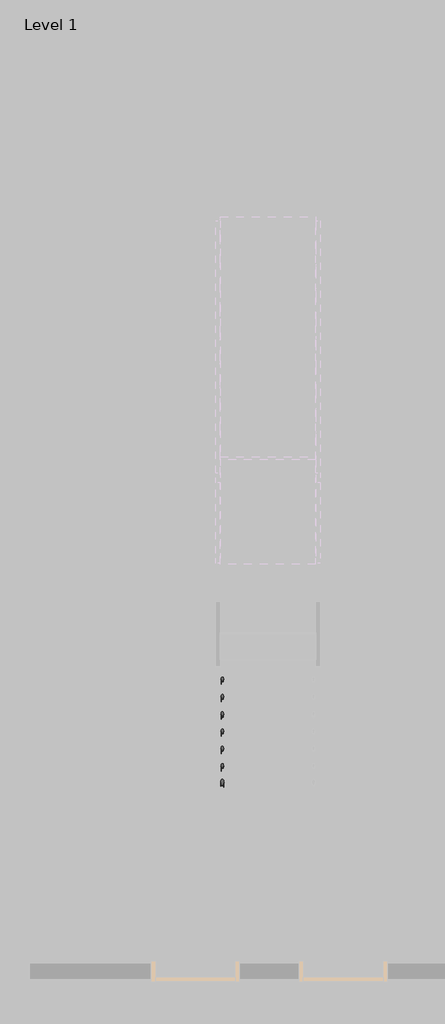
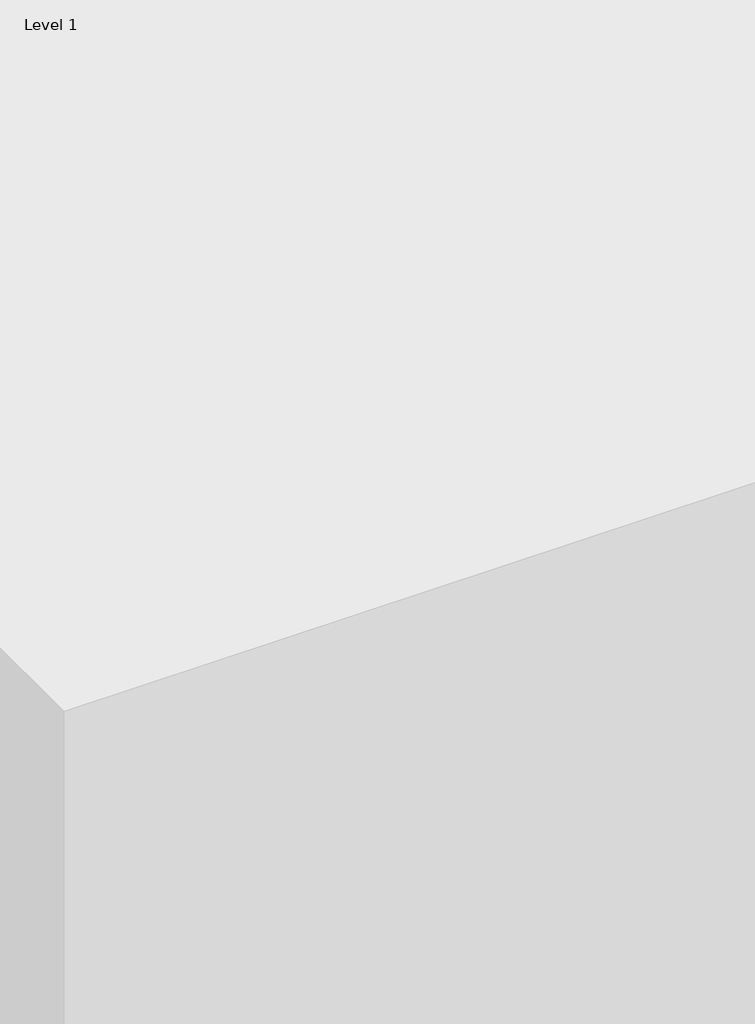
# One storey, part 18 of 27: 1 railing.
"""IFC4 building model written with IfcOpenShell, lengths in millimetres."""

from ifc_helpers import new_model, si_unit, frame, origin, place, context, project, spatial, circle_curve, ellipse_curve, element, save
from ifc_brep_helpers import plane_surface, cylinder_surface, advanced_brep

model = new_model("IFC4")

# Units and contexts
model_context = context("Model", 3, world=origin())
ifc_project = project(units=[si_unit("LENGTHUNIT", "METRE", prefix="MILLI")], contexts=[model_context])

# Site, building, storey
site = spatial("IfcSite", under=ifc_project)
building = spatial("IfcBuilding", under=site)
storey = spatial("IfcBuildingStorey", under=building, Name="Level 1", Elevation=0.0)

# Railing
placement = place(None, origin())
element("IfcRailing", 1, ObjectType="900mm Pipe", at=placement, inside=storey, context=model_context, shape_type="AdvancedBrep", body=[
    advanced_brep(
    [(2614.0567657, -13373.8611817, 1049.1094102), (2574.0567657, -13373.8611817, 1049.1094102), (2614.0567657, -10618.1011638, 2780.0), (2574.0567657, -10618.1011638, 2780.0), (2614.0567657, -9693.1011638, 2780.0), (2574.0567657, -9693.1011638, 2780.0), (2614.0567657, -9413.2234845, 2955.790939), (2574.0567657, -9413.2234845, 2955.790939), (2614.0567657, -6673.8611817, 4676.3821375), (2574.0567657, -6673.8611817, 4676.3821375)],
    [
        (0, 1, ellipse_curve(frame((2594.0567657, -13373.8611817, 1049.1094102), z_axis=(0.0, -1.0, 0.0), x_axis=(0.0, 0.0, -1.0)), 23.6178625, 20.0)),
        (1, 0, ellipse_curve(frame((2594.0567657, -13373.8611817, 1049.1094102), z_axis=(0.0, -1.0, 0.0), x_axis=(0.0, 0.0, -1.0)), 23.6178625, 20.0)),
        (0, 2),
        (2, 3, ellipse_curve(frame((2594.0567657, -10618.1011638, 2780.0), z_axis=(0.0, -0.9609413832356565, -0.2767519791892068), x_axis=(0.0, 0.2767519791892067, -0.9609413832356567)), 20.812924, 20.0)),
        (3, 1),
        (3, 2, ellipse_curve(frame((2594.0567657, -10618.1011638, 2780.0), z_axis=(0.0, -0.9609413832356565, -0.2767519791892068), x_axis=(0.0, 0.2767519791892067, -0.9609413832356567)), 20.812924, 20.0)),
        (2, 4),
        (4, 5, ellipse_curve(frame((2594.0567657, -9693.1011638, 2780.0), z_axis=(0.0, -0.9609413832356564, -0.2767519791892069), x_axis=(0.0, -0.27675197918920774, 0.9609413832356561)), 20.812924, 20.0)),
        (5, 3),
        (5, 4, ellipse_curve(frame((2594.0567657, -9693.1011638, 2780.0), z_axis=(0.0, -0.9609413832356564, -0.2767519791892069), x_axis=(0.0, -0.27675197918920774, 0.9609413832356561)), 20.812924, 20.0)),
        (4, 6),
        (6, 7, circle_curve(frame((2594.0567657, -9413.2234845, 2955.790939), z_axis=(0.0, -0.8468166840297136, -0.5318848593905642), x_axis=(-1.0, 0.0, 0.0)), 20.0)),
        (7, 5),
        (7, 6, circle_curve(frame((2594.0567657, -9413.2234845, 2955.790939), z_axis=(0.0, -0.8468166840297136, -0.5318848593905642), x_axis=(-1.0, 0.0, 0.0)), 20.0)),
        (8, 9, ellipse_curve(frame((2594.0567657, -6673.8611817, 4676.3821375), z_axis=(0.0, 1.0, 0.0), x_axis=(0.0, 0.0, -1.0)), 23.6178625, 20.0)),
        (9, 8, ellipse_curve(frame((2594.0567657, -6673.8611817, 4676.3821375), z_axis=(0.0, 1.0, 0.0), x_axis=(0.0, 0.0, -1.0)), 23.6178625, 20.0)),
        (6, 8),
        (9, 7),
    ],
    [
        plane_surface(frame((2594.0567657, -13373.8611817, 1072.7272727), z_axis=(0.0, -1.0, 0.0), x_axis=(0.0, 0.0, 1.0))),
        cylinder_surface(frame((2594.0567657, -13363.2234845, 1055.790939), z_axis=(0.0, -0.8468166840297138, -0.5318848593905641), x_axis=(-1.0, 0.0, 0.0)), 20.0),
        cylinder_surface(frame((2594.0567657, -10623.8611817, 2780.0), z_axis=(0.0, -1.0, 0.0), x_axis=(-1.0, 0.0, 0.0)), 20.0),
        cylinder_surface(frame((2594.0567657, -9688.2234845, 2783.0636663), z_axis=(0.0, -0.8468166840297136, -0.5318848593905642), x_axis=(-1.0, 0.0, 0.0)), 20.0),
        plane_surface(frame((2594.0567657, -6673.8611817, 4700.0), z_axis=(0.0, 1.0, 0.0), x_axis=(0.0, 0.0, 1.0))),
        cylinder_surface(frame((2594.0567657, -9413.2234845, 2955.790939), z_axis=(0.0, -0.8468166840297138, -0.531884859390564), x_axis=(-1.0, 0.0, 0.0)), 20.0),
    ],
    [
        (0, [[1, 2]]),
        (1, [[-1, 3, 4, 5]]),
        (1, [[-2, -5, 6, -3]]),
        (2, [[-4, 7, 8, 9]]),
        (2, [[-6, -9, 10, -7]]),
        (3, [[-8, 11, 12, 13]]),
        (3, [[-10, -13, 14, -11]]),
        (4, [[15, 16]]),
        (5, [[-12, 17, -16, 18]]),
        (5, [[-14, -18, -15, -17]]),
    ],
),
    advanced_brep(
    [(2609.0567657, -13373.8611817, 930.0138759), (2579.0567657, -13373.8611817, 930.0138759), (2609.0567657, -10623.8611817, 2657.2866031), (2579.0567657, -10623.8611817, 2657.2866031)],
    [
        (0, 1, ellipse_curve(frame((2594.0567657, -13373.8611817, 930.0138759), z_axis=(0.0, -1.0, 0.0), x_axis=(0.0, 0.0, -1.0)), 17.7133969, 15.0)),
        (1, 0, ellipse_curve(frame((2594.0567657, -13373.8611817, 930.0138759), z_axis=(0.0, -1.0, 0.0), x_axis=(0.0, 0.0, -1.0)), 17.7133969, 15.0)),
        (2, 3, ellipse_curve(frame((2594.0567657, -10623.8611817, 2657.2866031), z_axis=(0.0, 1.0, 0.0), x_axis=(0.0, 0.0, -1.0)), 17.7133969, 15.0)),
        (3, 2, ellipse_curve(frame((2594.0567657, -10623.8611817, 2657.2866031), z_axis=(0.0, 1.0, 0.0), x_axis=(0.0, 0.0, -1.0)), 17.7133969, 15.0)),
        (0, 2),
        (3, 1),
    ],
    [
        plane_surface(frame((2594.0567657, -13373.8611817, 947.7272727), z_axis=(0.0, -1.0, 0.0), x_axis=(0.0, 0.0, 1.0))),
        plane_surface(frame((2594.0567657, -10623.8611817, 2675.0), z_axis=(0.0, 1.0, 0.0), x_axis=(0.0, 0.0, 1.0))),
        cylinder_surface(frame((2594.0567657, -13365.8829088, 935.0250225), z_axis=(0.0, -0.8468166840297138, -0.5318848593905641), x_axis=(-1.0, 0.0, 0.0)), 15.0),
    ],
    [
        (0, [[1, 2]]),
        (1, [[3, 4]]),
        (2, [[-1, 5, -4, 6]]),
        (2, [[-2, -6, -3, -5]]),
    ],
),
    advanced_brep(
    [(2609.0567657, -10623.8611817, 2660.0), (2579.0567657, -10623.8611817, 2660.0), (2609.0567657, -9694.5411682, 2660.0), (2579.0567657, -9694.5411682, 2660.0), (2609.0567657, -9423.8611817, 2830.0138759), (2579.0567657, -9423.8611817, 2830.0138759)],
    [
        (0, 1, circle_curve(frame((2594.0567657, -10623.8611817, 2660.0), z_axis=(0.0, -1.0, 0.0), x_axis=(-1.0, 0.0, 0.0)), 15.0)),
        (1, 0, circle_curve(frame((2594.0567657, -10623.8611817, 2660.0), z_axis=(0.0, -1.0, 0.0), x_axis=(-1.0, 0.0, 0.0)), 15.0)),
        (0, 2),
        (2, 3, ellipse_curve(frame((2594.0567657, -9694.5411682, 2660.0), z_axis=(0.0, -0.9609413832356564, -0.2767519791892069), x_axis=(0.0, -0.2767519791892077, 0.9609413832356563)), 15.609693, 15.0)),
        (3, 1),
        (3, 2, ellipse_curve(frame((2594.0567657, -9694.5411682, 2660.0), z_axis=(0.0, -0.9609413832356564, -0.2767519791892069), x_axis=(0.0, -0.2767519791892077, 0.9609413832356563)), 15.609693, 15.0)),
        (4, 5, ellipse_curve(frame((2594.0567657, -9423.8611817, 2830.0138759), z_axis=(0.0, 1.0, 0.0), x_axis=(0.0, 0.0, -0.9999999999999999)), 17.7133969, 15.0)),
        (5, 4, ellipse_curve(frame((2594.0567657, -9423.8611817, 2830.0138759), z_axis=(0.0, 1.0, 0.0), x_axis=(0.0, 0.0, -0.9999999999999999)), 17.7133969, 15.0)),
        (2, 4),
        (5, 3),
    ],
    [
        plane_surface(frame((2594.0567657, -10623.8611817, 2675.0), z_axis=(0.0, -1.0, 0.0), x_axis=(0.0, 0.0, 1.0))),
        cylinder_surface(frame((2594.0567657, -10623.8611817, 2660.0), z_axis=(0.0, -1.0, 0.0), x_axis=(-1.0, 0.0, 0.0)), 15.0),
        plane_surface(frame((2594.0567657, -9423.8611817, 2847.7272727), z_axis=(0.0, 1.0, 0.0), x_axis=(0.0, 0.0, 1.0))),
        cylinder_surface(frame((2594.0567657, -9690.8829088, 2662.2977497), z_axis=(0.0, -0.8468166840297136, -0.5318848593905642), x_axis=(-1.0, 0.0, 0.0)), 15.0),
    ],
    [
        (0, [[1, 2]]),
        (1, [[-1, 3, 4, 5]]),
        (1, [[-2, -5, 6, -3]]),
        (2, [[7, 8]]),
        (3, [[-4, 9, -8, 10]]),
        (3, [[-6, -10, -7, -9]]),
    ],
),
    advanced_brep(
    [(2609.0567657, -9423.8611817, 2830.0138759), (2579.0567657, -9423.8611817, 2830.0138759), (2609.0567657, -6673.8611817, 4557.2866031), (2579.0567657, -6673.8611817, 4557.2866031)],
    [
        (0, 1, ellipse_curve(frame((2594.0567657, -9423.8611817, 2830.0138759), z_axis=(0.0, -1.0, 0.0), x_axis=(0.0, 0.0, -1.0)), 17.7133969, 15.0)),
        (1, 0, ellipse_curve(frame((2594.0567657, -9423.8611817, 2830.0138759), z_axis=(0.0, -1.0, 0.0), x_axis=(0.0, 0.0, -1.0)), 17.7133969, 15.0)),
        (2, 3, ellipse_curve(frame((2594.0567657, -6673.8611817, 4557.2866031), z_axis=(0.0, 1.0, 0.0), x_axis=(0.0, 0.0, -1.0)), 17.7133969, 15.0)),
        (3, 2, ellipse_curve(frame((2594.0567657, -6673.8611817, 4557.2866031), z_axis=(0.0, 1.0, 0.0), x_axis=(0.0, 0.0, -1.0)), 17.7133969, 15.0)),
        (0, 2),
        (3, 1),
    ],
    [
        plane_surface(frame((2594.0567657, -9423.8611817, 2847.7272727), z_axis=(0.0, -1.0, 0.0), x_axis=(0.0, 0.0, 1.0))),
        plane_surface(frame((2594.0567657, -6673.8611817, 4575.0), z_axis=(0.0, 1.0, 0.0), x_axis=(0.0, 0.0, 1.0))),
        cylinder_surface(frame((2594.0567657, -9415.8829088, 2835.0250225), z_axis=(0.0, -0.8468166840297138, -0.5318848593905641), x_axis=(-1.0, 0.0, 0.0)), 15.0),
    ],
    [
        (0, [[1, 2]]),
        (1, [[3, 4]]),
        (2, [[-1, 5, -4, 6]]),
        (2, [[-2, -6, -3, -5]]),
    ],
),
    advanced_brep(
    [(2609.0567657, -13373.8611817, 805.0138759), (2579.0567657, -13373.8611817, 805.0138759), (2609.0567657, -10623.8611817, 2532.2866031), (2579.0567657, -10623.8611817, 2532.2866031)],
    [
        (0, 1, ellipse_curve(frame((2594.0567657, -13373.8611817, 805.0138759), z_axis=(0.0, -1.0, 0.0), x_axis=(0.0, 0.0, -1.0)), 17.7133969, 15.0)),
        (1, 0, ellipse_curve(frame((2594.0567657, -13373.8611817, 805.0138759), z_axis=(0.0, -1.0, 0.0), x_axis=(0.0, 0.0, -1.0)), 17.7133969, 15.0)),
        (2, 3, ellipse_curve(frame((2594.0567657, -10623.8611817, 2532.2866031), z_axis=(0.0, 1.0, 0.0), x_axis=(0.0, 0.0, -1.0)), 17.7133969, 15.0)),
        (3, 2, ellipse_curve(frame((2594.0567657, -10623.8611817, 2532.2866031), z_axis=(0.0, 1.0, 0.0), x_axis=(0.0, 0.0, -1.0)), 17.7133969, 15.0)),
        (0, 2),
        (3, 1),
    ],
    [
        plane_surface(frame((2594.0567657, -13373.8611817, 822.7272727), z_axis=(0.0, -1.0, 0.0), x_axis=(0.0, 0.0, 1.0))),
        plane_surface(frame((2594.0567657, -10623.8611817, 2550.0), z_axis=(0.0, 1.0, 0.0), x_axis=(0.0, 0.0, 1.0))),
        cylinder_surface(frame((2594.0567657, -13365.8829088, 810.0250225), z_axis=(0.0, -0.8468166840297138, -0.5318848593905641), x_axis=(-1.0, 0.0, 0.0)), 15.0),
    ],
    [
        (0, [[1, 2]]),
        (1, [[3, 4]]),
        (2, [[-1, 5, -4, 6]]),
        (2, [[-2, -6, -3, -5]]),
    ],
),
    advanced_brep(
    [(2609.0567657, -10623.8611817, 2535.0), (2579.0567657, -10623.8611817, 2535.0), (2609.0567657, -9694.5411682, 2535.0), (2579.0567657, -9694.5411682, 2535.0), (2609.0567657, -9423.8611817, 2705.0138759), (2579.0567657, -9423.8611817, 2705.0138759)],
    [
        (0, 1, circle_curve(frame((2594.0567657, -10623.8611817, 2535.0), z_axis=(0.0, -1.0, 0.0), x_axis=(-1.0, 0.0, 0.0)), 15.0)),
        (1, 0, circle_curve(frame((2594.0567657, -10623.8611817, 2535.0), z_axis=(0.0, -1.0, 0.0), x_axis=(-1.0, 0.0, 0.0)), 15.0)),
        (0, 2),
        (2, 3, ellipse_curve(frame((2594.0567657, -9694.5411682, 2535.0), z_axis=(0.0, -0.9609413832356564, -0.2767519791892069), x_axis=(0.0, -0.2767519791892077, 0.9609413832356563)), 15.609693, 15.0)),
        (3, 1),
        (3, 2, ellipse_curve(frame((2594.0567657, -9694.5411682, 2535.0), z_axis=(0.0, -0.9609413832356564, -0.2767519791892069), x_axis=(0.0, -0.2767519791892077, 0.9609413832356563)), 15.609693, 15.0)),
        (4, 5, ellipse_curve(frame((2594.0567657, -9423.8611817, 2705.0138759), z_axis=(0.0, 1.0, 0.0), x_axis=(0.0, 0.0, -0.9999999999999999)), 17.7133969, 15.0)),
        (5, 4, ellipse_curve(frame((2594.0567657, -9423.8611817, 2705.0138759), z_axis=(0.0, 1.0, 0.0), x_axis=(0.0, 0.0, -0.9999999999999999)), 17.7133969, 15.0)),
        (2, 4),
        (5, 3),
    ],
    [
        plane_surface(frame((2594.0567657, -10623.8611817, 2550.0), z_axis=(0.0, -1.0, 0.0), x_axis=(0.0, 0.0, 1.0))),
        cylinder_surface(frame((2594.0567657, -10623.8611817, 2535.0), z_axis=(0.0, -1.0, 0.0), x_axis=(-1.0, 0.0, 0.0)), 15.0),
        plane_surface(frame((2594.0567657, -9423.8611817, 2722.7272727), z_axis=(0.0, 1.0, 0.0), x_axis=(0.0, 0.0, 1.0))),
        cylinder_surface(frame((2594.0567657, -9690.8829088, 2537.2977497), z_axis=(0.0, -0.8468166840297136, -0.5318848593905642), x_axis=(-1.0, 0.0, 0.0)), 15.0),
    ],
    [
        (0, [[1, 2]]),
        (1, [[-1, 3, 4, 5]]),
        (1, [[-2, -5, 6, -3]]),
        (2, [[7, 8]]),
        (3, [[-4, 9, -8, 10]]),
        (3, [[-6, -10, -7, -9]]),
    ],
),
    advanced_brep(
    [(2609.0567657, -9423.8611817, 2705.0138759), (2579.0567657, -9423.8611817, 2705.0138759), (2609.0567657, -6673.8611817, 4432.2866031), (2579.0567657, -6673.8611817, 4432.2866031)],
    [
        (0, 1, ellipse_curve(frame((2594.0567657, -9423.8611817, 2705.0138759), z_axis=(0.0, -1.0, 0.0), x_axis=(0.0, 0.0, -1.0)), 17.7133969, 15.0)),
        (1, 0, ellipse_curve(frame((2594.0567657, -9423.8611817, 2705.0138759), z_axis=(0.0, -1.0, 0.0), x_axis=(0.0, 0.0, -1.0)), 17.7133969, 15.0)),
        (2, 3, ellipse_curve(frame((2594.0567657, -6673.8611817, 4432.2866031), z_axis=(0.0, 1.0, 0.0), x_axis=(0.0, 0.0, -1.0)), 17.7133969, 15.0)),
        (3, 2, ellipse_curve(frame((2594.0567657, -6673.8611817, 4432.2866031), z_axis=(0.0, 1.0, 0.0), x_axis=(0.0, 0.0, -1.0)), 17.7133969, 15.0)),
        (0, 2),
        (3, 1),
    ],
    [
        plane_surface(frame((2594.0567657, -9423.8611817, 2722.7272727), z_axis=(0.0, -1.0, 0.0), x_axis=(0.0, 0.0, 1.0))),
        plane_surface(frame((2594.0567657, -6673.8611817, 4450.0), z_axis=(0.0, 1.0, 0.0), x_axis=(0.0, 0.0, 1.0))),
        cylinder_surface(frame((2594.0567657, -9415.8829088, 2710.0250225), z_axis=(0.0, -0.8468166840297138, -0.5318848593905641), x_axis=(-1.0, 0.0, 0.0)), 15.0),
    ],
    [
        (0, [[1, 2]]),
        (1, [[3, 4]]),
        (2, [[-1, 5, -4, 6]]),
        (2, [[-2, -6, -3, -5]]),
    ],
),
    advanced_brep(
    [(2609.0567657, -13373.8611817, 680.0138759), (2579.0567657, -13373.8611817, 680.0138759), (2609.0567657, -10623.8611817, 2407.2866031), (2579.0567657, -10623.8611817, 2407.2866031)],
    [
        (0, 1, ellipse_curve(frame((2594.0567657, -13373.8611817, 680.0138759), z_axis=(0.0, -1.0, 0.0), x_axis=(0.0, 0.0, -1.0)), 17.7133969, 15.0)),
        (1, 0, ellipse_curve(frame((2594.0567657, -13373.8611817, 680.0138759), z_axis=(0.0, -1.0, 0.0), x_axis=(0.0, 0.0, -1.0)), 17.7133969, 15.0)),
        (2, 3, ellipse_curve(frame((2594.0567657, -10623.8611817, 2407.2866031), z_axis=(0.0, 1.0, 0.0), x_axis=(0.0, 0.0, -1.0)), 17.7133969, 15.0)),
        (3, 2, ellipse_curve(frame((2594.0567657, -10623.8611817, 2407.2866031), z_axis=(0.0, 1.0, 0.0), x_axis=(0.0, 0.0, -1.0)), 17.7133969, 15.0)),
        (0, 2),
        (3, 1),
    ],
    [
        plane_surface(frame((2594.0567657, -13373.8611817, 697.7272727), z_axis=(0.0, -1.0, 0.0), x_axis=(0.0, 0.0, 1.0))),
        plane_surface(frame((2594.0567657, -10623.8611817, 2425.0), z_axis=(0.0, 1.0, 0.0), x_axis=(0.0, 0.0, 1.0))),
        cylinder_surface(frame((2594.0567657, -13365.8829088, 685.0250225), z_axis=(0.0, -0.8468166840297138, -0.5318848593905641), x_axis=(-1.0, 0.0, 0.0)), 15.0),
    ],
    [
        (0, [[1, 2]]),
        (1, [[3, 4]]),
        (2, [[-1, 5, -4, 6]]),
        (2, [[-2, -6, -3, -5]]),
    ],
),
    advanced_brep(
    [(2609.0567657, -10623.8611817, 2410.0), (2579.0567657, -10623.8611817, 2410.0), (2609.0567657, -9694.5411682, 2410.0), (2579.0567657, -9694.5411682, 2410.0), (2609.0567657, -9423.8611817, 2580.0138759), (2579.0567657, -9423.8611817, 2580.0138759)],
    [
        (0, 1, circle_curve(frame((2594.0567657, -10623.8611817, 2410.0), z_axis=(0.0, -1.0, 0.0), x_axis=(-1.0, 0.0, 0.0)), 15.0)),
        (1, 0, circle_curve(frame((2594.0567657, -10623.8611817, 2410.0), z_axis=(0.0, -1.0, 0.0), x_axis=(-1.0, 0.0, 0.0)), 15.0)),
        (0, 2),
        (2, 3, ellipse_curve(frame((2594.0567657, -9694.5411682, 2410.0), z_axis=(0.0, -0.9609413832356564, -0.2767519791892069), x_axis=(0.0, -0.2767519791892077, 0.9609413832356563)), 15.609693, 15.0)),
        (3, 1),
        (3, 2, ellipse_curve(frame((2594.0567657, -9694.5411682, 2410.0), z_axis=(0.0, -0.9609413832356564, -0.2767519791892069), x_axis=(0.0, -0.2767519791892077, 0.9609413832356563)), 15.609693, 15.0)),
        (4, 5, ellipse_curve(frame((2594.0567657, -9423.8611817, 2580.0138759), z_axis=(0.0, 1.0, 0.0), x_axis=(0.0, 0.0, -0.9999999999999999)), 17.7133969, 15.0)),
        (5, 4, ellipse_curve(frame((2594.0567657, -9423.8611817, 2580.0138759), z_axis=(0.0, 1.0, 0.0), x_axis=(0.0, 0.0, -0.9999999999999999)), 17.7133969, 15.0)),
        (2, 4),
        (5, 3),
    ],
    [
        plane_surface(frame((2594.0567657, -10623.8611817, 2425.0), z_axis=(0.0, -1.0, 0.0), x_axis=(0.0, 0.0, 1.0))),
        cylinder_surface(frame((2594.0567657, -10623.8611817, 2410.0), z_axis=(0.0, -1.0, 0.0), x_axis=(-1.0, 0.0, 0.0)), 15.0),
        plane_surface(frame((2594.0567657, -9423.8611817, 2597.7272727), z_axis=(0.0, 1.0, 0.0), x_axis=(0.0, 0.0, 1.0))),
        cylinder_surface(frame((2594.0567657, -9690.8829088, 2412.2977497), z_axis=(0.0, -0.8468166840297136, -0.5318848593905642), x_axis=(-1.0, 0.0, 0.0)), 15.0),
    ],
    [
        (0, [[1, 2]]),
        (1, [[-1, 3, 4, 5]]),
        (1, [[-2, -5, 6, -3]]),
        (2, [[7, 8]]),
        (3, [[-4, 9, -8, 10]]),
        (3, [[-6, -10, -7, -9]]),
    ],
),
    advanced_brep(
    [(2609.0567657, -9423.8611817, 2580.0138759), (2579.0567657, -9423.8611817, 2580.0138759), (2609.0567657, -6673.8611817, 4307.2866031), (2579.0567657, -6673.8611817, 4307.2866031)],
    [
        (0, 1, ellipse_curve(frame((2594.0567657, -9423.8611817, 2580.0138759), z_axis=(0.0, -1.0, 0.0), x_axis=(0.0, 0.0, -1.0)), 17.7133969, 15.0)),
        (1, 0, ellipse_curve(frame((2594.0567657, -9423.8611817, 2580.0138759), z_axis=(0.0, -1.0, 0.0), x_axis=(0.0, 0.0, -1.0)), 17.7133969, 15.0)),
        (2, 3, ellipse_curve(frame((2594.0567657, -6673.8611817, 4307.2866031), z_axis=(0.0, 1.0, 0.0), x_axis=(0.0, 0.0, -1.0)), 17.7133969, 15.0)),
        (3, 2, ellipse_curve(frame((2594.0567657, -6673.8611817, 4307.2866031), z_axis=(0.0, 1.0, 0.0), x_axis=(0.0, 0.0, -1.0)), 17.7133969, 15.0)),
        (0, 2),
        (3, 1),
    ],
    [
        plane_surface(frame((2594.0567657, -9423.8611817, 2597.7272727), z_axis=(0.0, -1.0, 0.0), x_axis=(0.0, 0.0, 1.0))),
        plane_surface(frame((2594.0567657, -6673.8611817, 4325.0), z_axis=(0.0, 1.0, 0.0), x_axis=(0.0, 0.0, 1.0))),
        cylinder_surface(frame((2594.0567657, -9415.8829088, 2585.0250225), z_axis=(0.0, -0.8468166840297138, -0.5318848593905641), x_axis=(-1.0, 0.0, 0.0)), 15.0),
    ],
    [
        (0, [[1, 2]]),
        (1, [[3, 4]]),
        (2, [[-1, 5, -4, 6]]),
        (2, [[-2, -6, -3, -5]]),
    ],
),
    advanced_brep(
    [(2609.0567657, -13373.8611817, 555.0138759), (2579.0567657, -13373.8611817, 555.0138759), (2609.0567657, -10623.8611817, 2282.2866031), (2579.0567657, -10623.8611817, 2282.2866031)],
    [
        (0, 1, ellipse_curve(frame((2594.0567657, -13373.8611817, 555.0138759), z_axis=(0.0, -1.0, 0.0), x_axis=(0.0, 0.0, -1.0)), 17.7133969, 15.0)),
        (1, 0, ellipse_curve(frame((2594.0567657, -13373.8611817, 555.0138759), z_axis=(0.0, -1.0, 0.0), x_axis=(0.0, 0.0, -1.0)), 17.7133969, 15.0)),
        (2, 3, ellipse_curve(frame((2594.0567657, -10623.8611817, 2282.2866031), z_axis=(0.0, 1.0, 0.0), x_axis=(0.0, 0.0, -1.0)), 17.7133969, 15.0)),
        (3, 2, ellipse_curve(frame((2594.0567657, -10623.8611817, 2282.2866031), z_axis=(0.0, 1.0, 0.0), x_axis=(0.0, 0.0, -1.0)), 17.7133969, 15.0)),
        (0, 2),
        (3, 1),
    ],
    [
        plane_surface(frame((2594.0567657, -13373.8611817, 572.7272727), z_axis=(0.0, -1.0, 0.0), x_axis=(0.0, 0.0, 1.0))),
        plane_surface(frame((2594.0567657, -10623.8611817, 2300.0), z_axis=(0.0, 1.0, 0.0), x_axis=(0.0, 0.0, 1.0))),
        cylinder_surface(frame((2594.0567657, -13365.8829088, 560.0250225), z_axis=(0.0, -0.8468166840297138, -0.5318848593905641), x_axis=(-1.0, 0.0, 0.0)), 15.0),
    ],
    [
        (0, [[1, 2]]),
        (1, [[3, 4]]),
        (2, [[-1, 5, -4, 6]]),
        (2, [[-2, -6, -3, -5]]),
    ],
),
    advanced_brep(
    [(2609.0567657, -10623.8611817, 2285.0), (2579.0567657, -10623.8611817, 2285.0), (2609.0567657, -9694.5411682, 2285.0), (2579.0567657, -9694.5411682, 2285.0), (2609.0567657, -9423.8611817, 2455.0138759), (2579.0567657, -9423.8611817, 2455.0138759)],
    [
        (0, 1, circle_curve(frame((2594.0567657, -10623.8611817, 2285.0), z_axis=(0.0, -1.0, 0.0), x_axis=(-1.0, 0.0, 0.0)), 15.0)),
        (1, 0, circle_curve(frame((2594.0567657, -10623.8611817, 2285.0), z_axis=(0.0, -1.0, 0.0), x_axis=(-1.0, 0.0, 0.0)), 15.0)),
        (0, 2),
        (2, 3, ellipse_curve(frame((2594.0567657, -9694.5411682, 2285.0), z_axis=(0.0, -0.9609413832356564, -0.2767519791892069), x_axis=(0.0, -0.2767519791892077, 0.9609413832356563)), 15.609693, 15.0)),
        (3, 1),
        (3, 2, ellipse_curve(frame((2594.0567657, -9694.5411682, 2285.0), z_axis=(0.0, -0.9609413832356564, -0.2767519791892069), x_axis=(0.0, -0.2767519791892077, 0.9609413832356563)), 15.609693, 15.0)),
        (4, 5, ellipse_curve(frame((2594.0567657, -9423.8611817, 2455.0138759), z_axis=(0.0, 1.0, 0.0), x_axis=(0.0, 0.0, -0.9999999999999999)), 17.7133969, 15.0)),
        (5, 4, ellipse_curve(frame((2594.0567657, -9423.8611817, 2455.0138759), z_axis=(0.0, 1.0, 0.0), x_axis=(0.0, 0.0, -0.9999999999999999)), 17.7133969, 15.0)),
        (2, 4),
        (5, 3),
    ],
    [
        plane_surface(frame((2594.0567657, -10623.8611817, 2300.0), z_axis=(0.0, -1.0, 0.0), x_axis=(0.0, 0.0, 1.0))),
        cylinder_surface(frame((2594.0567657, -10623.8611817, 2285.0), z_axis=(0.0, -1.0, 0.0), x_axis=(-1.0, 0.0, 0.0)), 15.0),
        plane_surface(frame((2594.0567657, -9423.8611817, 2472.7272727), z_axis=(0.0, 1.0, 0.0), x_axis=(0.0, 0.0, 1.0))),
        cylinder_surface(frame((2594.0567657, -9690.8829088, 2287.2977497), z_axis=(0.0, -0.8468166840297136, -0.5318848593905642), x_axis=(-1.0, 0.0, 0.0)), 15.0),
    ],
    [
        (0, [[1, 2]]),
        (1, [[-1, 3, 4, 5]]),
        (1, [[-2, -5, 6, -3]]),
        (2, [[7, 8]]),
        (3, [[-4, 9, -8, 10]]),
        (3, [[-6, -10, -7, -9]]),
    ],
),
    advanced_brep(
    [(2609.0567657, -9423.8611817, 2455.0138759), (2579.0567657, -9423.8611817, 2455.0138759), (2609.0567657, -6673.8611817, 4182.2866031), (2579.0567657, -6673.8611817, 4182.2866031)],
    [
        (0, 1, ellipse_curve(frame((2594.0567657, -9423.8611817, 2455.0138759), z_axis=(0.0, -1.0, 0.0), x_axis=(0.0, 0.0, -1.0)), 17.7133969, 15.0)),
        (1, 0, ellipse_curve(frame((2594.0567657, -9423.8611817, 2455.0138759), z_axis=(0.0, -1.0, 0.0), x_axis=(0.0, 0.0, -1.0)), 17.7133969, 15.0)),
        (2, 3, ellipse_curve(frame((2594.0567657, -6673.8611817, 4182.2866031), z_axis=(0.0, 1.0, 0.0), x_axis=(0.0, 0.0, -1.0)), 17.7133969, 15.0)),
        (3, 2, ellipse_curve(frame((2594.0567657, -6673.8611817, 4182.2866031), z_axis=(0.0, 1.0, 0.0), x_axis=(0.0, 0.0, -1.0)), 17.7133969, 15.0)),
        (0, 2),
        (3, 1),
    ],
    [
        plane_surface(frame((2594.0567657, -9423.8611817, 2472.7272727), z_axis=(0.0, -1.0, 0.0), x_axis=(0.0, 0.0, 1.0))),
        plane_surface(frame((2594.0567657, -6673.8611817, 4200.0), z_axis=(0.0, 1.0, 0.0), x_axis=(0.0, 0.0, 1.0))),
        cylinder_surface(frame((2594.0567657, -9415.8829088, 2460.0250225), z_axis=(0.0, -0.8468166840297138, -0.5318848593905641), x_axis=(-1.0, 0.0, 0.0)), 15.0),
    ],
    [
        (0, [[1, 2]]),
        (1, [[3, 4]]),
        (2, [[-1, 5, -4, 6]]),
        (2, [[-2, -6, -3, -5]]),
    ],
),
    advanced_brep(
    [(2609.0567657, -13373.8611817, 430.0138759), (2579.0567657, -13373.8611817, 430.0138759), (2609.0567657, -10623.8611817, 2157.2866031), (2579.0567657, -10623.8611817, 2157.2866031)],
    [
        (0, 1, ellipse_curve(frame((2594.0567657, -13373.8611817, 430.0138759), z_axis=(0.0, -1.0, 0.0), x_axis=(0.0, 0.0, -1.0)), 17.7133969, 15.0)),
        (1, 0, ellipse_curve(frame((2594.0567657, -13373.8611817, 430.0138759), z_axis=(0.0, -1.0, 0.0), x_axis=(0.0, 0.0, -1.0)), 17.7133969, 15.0)),
        (2, 3, ellipse_curve(frame((2594.0567657, -10623.8611817, 2157.2866031), z_axis=(0.0, 1.0, 0.0), x_axis=(0.0, 0.0, -1.0)), 17.7133969, 15.0)),
        (3, 2, ellipse_curve(frame((2594.0567657, -10623.8611817, 2157.2866031), z_axis=(0.0, 1.0, 0.0), x_axis=(0.0, 0.0, -1.0)), 17.7133969, 15.0)),
        (0, 2),
        (3, 1),
    ],
    [
        plane_surface(frame((2594.0567657, -13373.8611817, 447.7272727), z_axis=(0.0, -1.0, 0.0), x_axis=(0.0, 0.0, 1.0))),
        plane_surface(frame((2594.0567657, -10623.8611817, 2175.0), z_axis=(0.0, 1.0, 0.0), x_axis=(0.0, 0.0, 1.0))),
        cylinder_surface(frame((2594.0567657, -13365.8829088, 435.0250225), z_axis=(0.0, -0.8468166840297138, -0.5318848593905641), x_axis=(-1.0, 0.0, 0.0)), 15.0),
    ],
    [
        (0, [[1, 2]]),
        (1, [[3, 4]]),
        (2, [[-1, 5, -4, 6]]),
        (2, [[-2, -6, -3, -5]]),
    ],
),
    advanced_brep(
    [(2609.0567657, -10623.8611817, 2160.0), (2579.0567657, -10623.8611817, 2160.0), (2609.0567657, -9694.5411682, 2160.0), (2579.0567657, -9694.5411682, 2160.0), (2609.0567657, -9423.8611817, 2330.0138759), (2579.0567657, -9423.8611817, 2330.0138759)],
    [
        (0, 1, circle_curve(frame((2594.0567657, -10623.8611817, 2160.0), z_axis=(0.0, -1.0, 0.0), x_axis=(-1.0, 0.0, 0.0)), 15.0)),
        (1, 0, circle_curve(frame((2594.0567657, -10623.8611817, 2160.0), z_axis=(0.0, -1.0, 0.0), x_axis=(-1.0, 0.0, 0.0)), 15.0)),
        (0, 2),
        (2, 3, ellipse_curve(frame((2594.0567657, -9694.5411682, 2160.0), z_axis=(0.0, -0.9609413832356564, -0.2767519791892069), x_axis=(0.0, -0.2767519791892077, 0.9609413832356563)), 15.609693, 15.0)),
        (3, 1),
        (3, 2, ellipse_curve(frame((2594.0567657, -9694.5411682, 2160.0), z_axis=(0.0, -0.9609413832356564, -0.2767519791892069), x_axis=(0.0, -0.2767519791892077, 0.9609413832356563)), 15.609693, 15.0)),
        (4, 5, ellipse_curve(frame((2594.0567657, -9423.8611817, 2330.0138759), z_axis=(0.0, 1.0, 0.0), x_axis=(0.0, 0.0, -0.9999999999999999)), 17.7133969, 15.0)),
        (5, 4, ellipse_curve(frame((2594.0567657, -9423.8611817, 2330.0138759), z_axis=(0.0, 1.0, 0.0), x_axis=(0.0, 0.0, -0.9999999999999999)), 17.7133969, 15.0)),
        (2, 4),
        (5, 3),
    ],
    [
        plane_surface(frame((2594.0567657, -10623.8611817, 2175.0), z_axis=(0.0, -1.0, 0.0), x_axis=(0.0, 0.0, 1.0))),
        cylinder_surface(frame((2594.0567657, -10623.8611817, 2160.0), z_axis=(0.0, -1.0, 0.0), x_axis=(-1.0, 0.0, 0.0)), 15.0),
        plane_surface(frame((2594.0567657, -9423.8611817, 2347.7272727), z_axis=(0.0, 1.0, 0.0), x_axis=(0.0, 0.0, 1.0))),
        cylinder_surface(frame((2594.0567657, -9690.8829088, 2162.2977497), z_axis=(0.0, -0.8468166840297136, -0.5318848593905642), x_axis=(-1.0, 0.0, 0.0)), 15.0),
    ],
    [
        (0, [[1, 2]]),
        (1, [[-1, 3, 4, 5]]),
        (1, [[-2, -5, 6, -3]]),
        (2, [[7, 8]]),
        (3, [[-4, 9, -8, 10]]),
        (3, [[-6, -10, -7, -9]]),
    ],
),
    advanced_brep(
    [(2609.0567657, -9423.8611817, 2330.0138759), (2579.0567657, -9423.8611817, 2330.0138759), (2609.0567657, -6673.8611817, 4057.2866031), (2579.0567657, -6673.8611817, 4057.2866031)],
    [
        (0, 1, ellipse_curve(frame((2594.0567657, -9423.8611817, 2330.0138759), z_axis=(0.0, -1.0, 0.0), x_axis=(0.0, 0.0, -1.0)), 17.7133969, 15.0)),
        (1, 0, ellipse_curve(frame((2594.0567657, -9423.8611817, 2330.0138759), z_axis=(0.0, -1.0, 0.0), x_axis=(0.0, 0.0, -1.0)), 17.7133969, 15.0)),
        (2, 3, ellipse_curve(frame((2594.0567657, -6673.8611817, 4057.2866031), z_axis=(0.0, 1.0, 0.0), x_axis=(0.0, 0.0, -1.0)), 17.7133969, 15.0)),
        (3, 2, ellipse_curve(frame((2594.0567657, -6673.8611817, 4057.2866031), z_axis=(0.0, 1.0, 0.0), x_axis=(0.0, 0.0, -1.0)), 17.7133969, 15.0)),
        (0, 2),
        (3, 1),
    ],
    [
        plane_surface(frame((2594.0567657, -9423.8611817, 2347.7272727), z_axis=(0.0, -1.0, 0.0), x_axis=(0.0, 0.0, 1.0))),
        plane_surface(frame((2594.0567657, -6673.8611817, 4075.0), z_axis=(0.0, 1.0, 0.0), x_axis=(0.0, 0.0, 1.0))),
        cylinder_surface(frame((2594.0567657, -9415.8829088, 2335.0250225), z_axis=(0.0, -0.8468166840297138, -0.5318848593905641), x_axis=(-1.0, 0.0, 0.0)), 15.0),
    ],
    [
        (0, [[1, 2]]),
        (1, [[3, 4]]),
        (2, [[-1, 5, -4, 6]]),
        (2, [[-2, -6, -3, -5]]),
    ],
),
    advanced_brep(
    [(2609.0567657, -13373.8611817, 305.0138759), (2579.0567657, -13373.8611817, 305.0138759), (2609.0567657, -10623.8611817, 2032.2866031), (2579.0567657, -10623.8611817, 2032.2866031)],
    [
        (0, 1, ellipse_curve(frame((2594.0567657, -13373.8611817, 305.0138759), z_axis=(0.0, -1.0, 0.0), x_axis=(0.0, 0.0, -1.0)), 17.7133969, 15.0)),
        (1, 0, ellipse_curve(frame((2594.0567657, -13373.8611817, 305.0138759), z_axis=(0.0, -1.0, 0.0), x_axis=(0.0, 0.0, -1.0)), 17.7133969, 15.0)),
        (2, 3, ellipse_curve(frame((2594.0567657, -10623.8611817, 2032.2866031), z_axis=(0.0, 1.0, 0.0), x_axis=(0.0, 0.0, -1.0)), 17.7133969, 15.0)),
        (3, 2, ellipse_curve(frame((2594.0567657, -10623.8611817, 2032.2866031), z_axis=(0.0, 1.0, 0.0), x_axis=(0.0, 0.0, -1.0)), 17.7133969, 15.0)),
        (0, 2),
        (3, 1),
    ],
    [
        plane_surface(frame((2594.0567657, -13373.8611817, 322.7272727), z_axis=(0.0, -1.0, 0.0), x_axis=(0.0, 0.0, 1.0))),
        plane_surface(frame((2594.0567657, -10623.8611817, 2050.0), z_axis=(0.0, 1.0, 0.0), x_axis=(0.0, 0.0, 1.0))),
        cylinder_surface(frame((2594.0567657, -13365.8829088, 310.0250225), z_axis=(0.0, -0.8468166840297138, -0.5318848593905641), x_axis=(-1.0, 0.0, 0.0)), 15.0),
    ],
    [
        (0, [[1, 2]]),
        (1, [[3, 4]]),
        (2, [[-1, 5, -4, 6]]),
        (2, [[-2, -6, -3, -5]]),
    ],
),
    advanced_brep(
    [(2609.0567657, -10623.8611817, 2035.0), (2579.0567657, -10623.8611817, 2035.0), (2609.0567657, -9694.5411682, 2035.0), (2579.0567657, -9694.5411682, 2035.0), (2609.0567657, -9423.8611817, 2205.0138759), (2579.0567657, -9423.8611817, 2205.0138759)],
    [
        (0, 1, circle_curve(frame((2594.0567657, -10623.8611817, 2035.0), z_axis=(0.0, -1.0, 0.0), x_axis=(-1.0, 0.0, 0.0)), 15.0)),
        (1, 0, circle_curve(frame((2594.0567657, -10623.8611817, 2035.0), z_axis=(0.0, -1.0, 0.0), x_axis=(-1.0, 0.0, 0.0)), 15.0)),
        (0, 2),
        (2, 3, ellipse_curve(frame((2594.0567657, -9694.5411682, 2035.0), z_axis=(0.0, -0.9609413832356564, -0.2767519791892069), x_axis=(0.0, -0.2767519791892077, 0.9609413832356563)), 15.609693, 15.0)),
        (3, 1),
        (3, 2, ellipse_curve(frame((2594.0567657, -9694.5411682, 2035.0), z_axis=(0.0, -0.9609413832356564, -0.2767519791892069), x_axis=(0.0, -0.2767519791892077, 0.9609413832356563)), 15.609693, 15.0)),
        (4, 5, ellipse_curve(frame((2594.0567657, -9423.8611817, 2205.0138759), z_axis=(0.0, 1.0, 0.0), x_axis=(0.0, 0.0, -0.9999999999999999)), 17.7133969, 15.0)),
        (5, 4, ellipse_curve(frame((2594.0567657, -9423.8611817, 2205.0138759), z_axis=(0.0, 1.0, 0.0), x_axis=(0.0, 0.0, -0.9999999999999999)), 17.7133969, 15.0)),
        (2, 4),
        (5, 3),
    ],
    [
        plane_surface(frame((2594.0567657, -10623.8611817, 2050.0), z_axis=(0.0, -1.0, 0.0), x_axis=(0.0, 0.0, 1.0))),
        cylinder_surface(frame((2594.0567657, -10623.8611817, 2035.0), z_axis=(0.0, -1.0, 0.0), x_axis=(-1.0, 0.0, 0.0)), 15.0),
        plane_surface(frame((2594.0567657, -9423.8611817, 2222.7272727), z_axis=(0.0, 1.0, 0.0), x_axis=(0.0, 0.0, 1.0))),
        cylinder_surface(frame((2594.0567657, -9690.8829088, 2037.2977497), z_axis=(0.0, -0.8468166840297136, -0.5318848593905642), x_axis=(-1.0, 0.0, 0.0)), 15.0),
    ],
    [
        (0, [[1, 2]]),
        (1, [[-1, 3, 4, 5]]),
        (1, [[-2, -5, 6, -3]]),
        (2, [[7, 8]]),
        (3, [[-4, 9, -8, 10]]),
        (3, [[-6, -10, -7, -9]]),
    ],
),
    advanced_brep(
    [(2609.0567657, -9423.8611817, 2205.0138759), (2579.0567657, -9423.8611817, 2205.0138759), (2609.0567657, -6673.8611817, 3932.2866031), (2579.0567657, -6673.8611817, 3932.2866031)],
    [
        (0, 1, ellipse_curve(frame((2594.0567657, -9423.8611817, 2205.0138759), z_axis=(0.0, -1.0, 0.0), x_axis=(0.0, 0.0, -1.0)), 17.7133969, 15.0)),
        (1, 0, ellipse_curve(frame((2594.0567657, -9423.8611817, 2205.0138759), z_axis=(0.0, -1.0, 0.0), x_axis=(0.0, 0.0, -1.0)), 17.7133969, 15.0)),
        (2, 3, ellipse_curve(frame((2594.0567657, -6673.8611817, 3932.2866031), z_axis=(0.0, 1.0, 0.0), x_axis=(0.0, 0.0, -1.0)), 17.7133969, 15.0)),
        (3, 2, ellipse_curve(frame((2594.0567657, -6673.8611817, 3932.2866031), z_axis=(0.0, 1.0, 0.0), x_axis=(0.0, 0.0, -1.0)), 17.7133969, 15.0)),
        (0, 2),
        (3, 1),
    ],
    [
        plane_surface(frame((2594.0567657, -9423.8611817, 2222.7272727), z_axis=(0.0, -1.0, 0.0), x_axis=(0.0, 0.0, 1.0))),
        plane_surface(frame((2594.0567657, -6673.8611817, 3950.0), z_axis=(0.0, 1.0, 0.0), x_axis=(0.0, 0.0, 1.0))),
        cylinder_surface(frame((2594.0567657, -9415.8829088, 2210.0250225), z_axis=(0.0, -0.8468166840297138, -0.5318848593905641), x_axis=(-1.0, 0.0, 0.0)), 15.0),
    ],
    [
        (0, [[1, 2]]),
        (1, [[3, 4]]),
        (2, [[-1, 5, -4, 6]]),
        (2, [[-2, -6, -3, -5]]),
    ],
),
    advanced_brep(
    [(2581.5567657, -7423.8611817, 4181.6898948), (2606.5567657, -7423.8611817, 4181.6898948), (2606.5567657, -7423.8611817, 3281.8181818), (2581.5567657, -7423.8611817, 3281.8181818)],
    [
        (0, 1, ellipse_curve(frame((2594.0567657, -7423.8611817, 4181.6898948), z_axis=(0.0, 0.5318848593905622, -0.8468166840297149), x_axis=(0.0, 0.8468166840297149, 0.531884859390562)), 14.7611641, 12.5)),
        (1, 2),
        (2, 3, circle_curve(frame((2594.0567657, -7423.8611817, 3281.8181818), z_axis=(0.0, 0.0, 1.0), x_axis=(1.0, 0.0, 0.0)), 12.5)),
        (3, 0),
        (3, 2, circle_curve(frame((2594.0567657, -7423.8611817, 3281.8181818), z_axis=(0.0, 0.0, 1.0), x_axis=(1.0, 0.0, 0.0)), 12.5)),
        (1, 0, ellipse_curve(frame((2594.0567657, -7423.8611817, 4181.6898948), z_axis=(0.0, 0.5318848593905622, -0.8468166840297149), x_axis=(0.0, 0.8468166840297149, 0.531884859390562)), 14.7611641, 12.5)),
    ],
    [
        cylinder_surface(frame((2594.0567657, -7423.8611817, 3181.8181818), z_axis=(0.0, 0.0, 1.0), x_axis=(1.0, 0.0, 0.0)), 12.5),
        plane_surface(frame((2619.0567657, -7398.8611817, 4197.3923742), z_axis=(0.0, -0.5318848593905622, 0.8468166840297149), x_axis=(-1.0, 0.0, 0.0))),
        plane_surface(frame((2619.0567657, -7448.8611817, 3281.8181818), z_axis=(0.0, 0.0, -1.0), x_axis=(-1.0, 0.0, 0.0))),
    ],
    [
        (0, [[1, 2, 3, 4]]),
        (0, [[5, -2, 6, -4]]),
        (1, [[-6, -1]]),
        (2, [[-5, -3]]),
    ],
),
    advanced_brep(
    [(2581.5567657, -8423.8611817, 3553.5907213), (2606.5567657, -8423.8611817, 3553.5907213), (2606.5567657, -8423.8611817, 2590.9090909), (2581.5567657, -8423.8611817, 2590.9090909)],
    [
        (0, 1, ellipse_curve(frame((2594.0567657, -8423.8611817, 3553.5907213), z_axis=(0.0, 0.5318848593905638, -0.8468166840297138), x_axis=(0.0, 0.8468166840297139, 0.5318848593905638)), 14.7611641, 12.5)),
        (1, 2),
        (2, 3, circle_curve(frame((2594.0567657, -8423.8611817, 2590.9090909), z_axis=(0.0, 0.0, 1.0), x_axis=(1.0, 0.0, 0.0)), 12.5)),
        (3, 0),
        (3, 2, circle_curve(frame((2594.0567657, -8423.8611817, 2590.9090909), z_axis=(0.0, 0.0, 1.0), x_axis=(1.0, 0.0, 0.0)), 12.5)),
        (1, 0, ellipse_curve(frame((2594.0567657, -8423.8611817, 3553.5907213), z_axis=(0.0, 0.5318848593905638, -0.8468166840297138), x_axis=(0.0, 0.8468166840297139, 0.5318848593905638)), 14.7611641, 12.5)),
    ],
    [
        cylinder_surface(frame((2594.0567657, -8423.8611817, 2490.9090909), z_axis=(0.0, 0.0, 1.0), x_axis=(1.0, 0.0, 0.0)), 12.5),
        plane_surface(frame((2619.0567657, -8398.8611817, 3569.2932006), z_axis=(0.0, -0.5318848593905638, 0.8468166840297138), x_axis=(-1.0, 0.0, 0.0))),
        plane_surface(frame((2619.0567657, -8448.8611817, 2590.9090909), z_axis=(0.0, 0.0, -1.0), x_axis=(-1.0, 0.0, 0.0))),
    ],
    [
        (0, [[1, 2, 3, 4]]),
        (0, [[5, -2, 6, -4]]),
        (1, [[-6, -1]]),
        (2, [[-5, -3]]),
    ],
),
    advanced_brep(
    [(2581.5567657, -9623.8611817, 2799.871713), (2606.5567657, -9623.8611817, 2799.871713), (2606.5567657, -9623.8611817, 1900.0), (2581.5567657, -9623.8611817, 1900.0)],
    [
        (0, 1, ellipse_curve(frame((2594.0567657, -9623.8611817, 2799.871713), z_axis=(0.0, 0.5318848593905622, -0.8468166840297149), x_axis=(0.0, 0.8468166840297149, 0.531884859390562)), 14.7611641, 12.5)),
        (1, 2),
        (2, 3, circle_curve(frame((2594.0567657, -9623.8611817, 1900.0), z_axis=(0.0, 0.0, 1.0), x_axis=(1.0, 0.0, 0.0)), 12.5)),
        (3, 0),
        (3, 2, circle_curve(frame((2594.0567657, -9623.8611817, 1900.0), z_axis=(0.0, 0.0, 1.0), x_axis=(1.0, 0.0, 0.0)), 12.5)),
        (1, 0, ellipse_curve(frame((2594.0567657, -9623.8611817, 2799.871713), z_axis=(0.0, 0.5318848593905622, -0.8468166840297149), x_axis=(0.0, 0.8468166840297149, 0.531884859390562)), 14.7611641, 12.5)),
    ],
    [
        cylinder_surface(frame((2594.0567657, -9623.8611817, 1800.0), z_axis=(0.0, 0.0, 1.0), x_axis=(1.0, 0.0, 0.0)), 12.5),
        plane_surface(frame((2619.0567657, -9598.8611817, 2815.5741924), z_axis=(0.0, -0.5318848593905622, 0.8468166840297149), x_axis=(-1.0, 0.0, 0.0))),
        plane_surface(frame((2619.0567657, -9648.8611817, 1900.0), z_axis=(0.0, 0.0, -1.0), x_axis=(-1.0, 0.0, 0.0))),
    ],
    [
        (0, [[1, 2, 3, 4]]),
        (0, [[5, -2, 6, -4]]),
        (1, [[-6, -1]]),
        (2, [[-5, -3]]),
    ],
),
    advanced_brep(
    [(2581.5567657, -11373.8611817, 2281.6898948), (2606.5567657, -11373.8611817, 2281.6898948), (2606.5567657, -11373.8611817, 1381.8181818), (2581.5567657, -11373.8611817, 1381.8181818)],
    [
        (0, 1, ellipse_curve(frame((2594.0567657, -11373.8611817, 2281.6898948), z_axis=(0.0, 0.5318848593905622, -0.8468166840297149), x_axis=(0.0, 0.8468166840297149, 0.531884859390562)), 14.7611641, 12.5)),
        (1, 2),
        (2, 3, circle_curve(frame((2594.0567657, -11373.8611817, 1381.8181818), z_axis=(0.0, 0.0, 1.0), x_axis=(1.0, 0.0, 0.0)), 12.5)),
        (3, 0),
        (3, 2, circle_curve(frame((2594.0567657, -11373.8611817, 1381.8181818), z_axis=(0.0, 0.0, 1.0), x_axis=(1.0, 0.0, 0.0)), 12.5)),
        (1, 0, ellipse_curve(frame((2594.0567657, -11373.8611817, 2281.6898948), z_axis=(0.0, 0.5318848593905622, -0.8468166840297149), x_axis=(0.0, 0.8468166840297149, 0.531884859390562)), 14.7611641, 12.5)),
    ],
    [
        cylinder_surface(frame((2594.0567657, -11373.8611817, 1281.8181818), z_axis=(0.0, 0.0, 1.0), x_axis=(1.0, 0.0, 0.0)), 12.5),
        plane_surface(frame((2619.0567657, -11348.8611817, 2297.3923742), z_axis=(0.0, -0.5318848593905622, 0.8468166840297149), x_axis=(-1.0, 0.0, 0.0))),
        plane_surface(frame((2619.0567657, -11398.8611817, 1381.8181818), z_axis=(0.0, 0.0, -1.0), x_axis=(-1.0, 0.0, 0.0))),
    ],
    [
        (0, [[1, 2, 3, 4]]),
        (0, [[5, -2, 6, -4]]),
        (1, [[-6, -1]]),
        (2, [[-5, -3]]),
    ],
),
    advanced_brep(
    [(2581.5567657, -12373.8611817, 1653.5907213), (2606.5567657, -12373.8611817, 1653.5907213), (2606.5567657, -12373.8611817, 690.9090909), (2581.5567657, -12373.8611817, 690.9090909)],
    [
        (0, 1, ellipse_curve(frame((2594.0567657, -12373.8611817, 1653.5907213), z_axis=(0.0, 0.5318848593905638, -0.8468166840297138), x_axis=(0.0, 0.8468166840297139, 0.5318848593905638)), 14.7611641, 12.5)),
        (1, 2),
        (2, 3, circle_curve(frame((2594.0567657, -12373.8611817, 690.9090909), z_axis=(0.0, 0.0, 1.0), x_axis=(1.0, 0.0, 0.0)), 12.5)),
        (3, 0),
        (3, 2, circle_curve(frame((2594.0567657, -12373.8611817, 690.9090909), z_axis=(0.0, 0.0, 1.0), x_axis=(1.0, 0.0, 0.0)), 12.5)),
        (1, 0, ellipse_curve(frame((2594.0567657, -12373.8611817, 1653.5907213), z_axis=(0.0, 0.5318848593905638, -0.8468166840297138), x_axis=(0.0, 0.8468166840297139, 0.5318848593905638)), 14.7611641, 12.5)),
    ],
    [
        cylinder_surface(frame((2594.0567657, -12373.8611817, 590.9090909), z_axis=(0.0, 0.0, 1.0), x_axis=(1.0, 0.0, 0.0)), 12.5),
        plane_surface(frame((2619.0567657, -12348.8611817, 1669.2932006), z_axis=(0.0, -0.5318848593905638, 0.8468166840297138), x_axis=(-1.0, 0.0, 0.0))),
        plane_surface(frame((2619.0567657, -12398.8611817, 690.9090909), z_axis=(0.0, 0.0, -1.0), x_axis=(-1.0, 0.0, 0.0))),
    ],
    [
        (0, [[1, 2, 3, 4]]),
        (0, [[5, -2, 6, -4]]),
        (1, [[-6, -1]]),
        (2, [[-5, -3]]),
    ],
),
    advanced_brep(
    [(2581.5567657, -9423.8611817, 2925.4915477), (2606.5567657, -9423.8611817, 2925.4915477), (2606.5567657, -9423.8611817, 1900.0), (2581.5567657, -9423.8611817, 1900.0)],
    [
        (0, 1, ellipse_curve(frame((2594.0567657, -9423.8611817, 2925.4915477), z_axis=(0.0, 0.5318848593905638, -0.8468166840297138), x_axis=(0.0, 0.8468166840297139, 0.5318848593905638)), 14.7611641, 12.5)),
        (1, 2),
        (2, 3, circle_curve(frame((2594.0567657, -9423.8611817, 1900.0), z_axis=(0.0, 0.0, 1.0), x_axis=(1.0, 0.0, 0.0)), 12.5)),
        (3, 0),
        (3, 2, circle_curve(frame((2594.0567657, -9423.8611817, 1900.0), z_axis=(0.0, 0.0, 1.0), x_axis=(1.0, 0.0, 0.0)), 12.5)),
        (1, 0, ellipse_curve(frame((2594.0567657, -9423.8611817, 2925.4915477), z_axis=(0.0, 0.5318848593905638, -0.8468166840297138), x_axis=(0.0, 0.8468166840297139, 0.5318848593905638)), 14.7611641, 12.5)),
    ],
    [
        cylinder_surface(frame((2594.0567657, -9423.8611817, 1800.0), z_axis=(0.0, 0.0, 1.0), x_axis=(1.0, 0.0, 0.0)), 12.5),
        plane_surface(frame((2619.0567657, -9398.8611817, 2941.1940271), z_axis=(0.0, -0.5318848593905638, 0.8468166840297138), x_axis=(-1.0, 0.0, 0.0))),
        plane_surface(frame((2619.0567657, -9448.8611817, 1900.0), z_axis=(0.0, 0.0, -1.0), x_axis=(-1.0, 0.0, 0.0))),
    ],
    [
        (0, [[1, 2, 3, 4]]),
        (0, [[5, -2, 6, -4]]),
        (1, [[-6, -1]]),
        (2, [[-5, -3]]),
    ],
),
    advanced_brep(
    [(2581.5567657, -10623.8611817, 2752.764275), (2606.5567657, -10623.8611817, 2752.764275), (2606.5567657, -10623.8611817, 1900.0), (2581.5567657, -10623.8611817, 1900.0)],
    [
        (0, 1, ellipse_curve(frame((2594.0567657, -10623.8611817, 2752.764275), z_axis=(0.0, 0.5318848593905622, -0.8468166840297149), x_axis=(0.0, 0.8468166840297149, 0.531884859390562)), 14.7611641, 12.5)),
        (1, 2),
        (2, 3, circle_curve(frame((2594.0567657, -10623.8611817, 1900.0), z_axis=(0.0, 0.0, 1.0), x_axis=(1.0, 0.0, 0.0)), 12.5)),
        (3, 0),
        (3, 2, circle_curve(frame((2594.0567657, -10623.8611817, 1900.0), z_axis=(0.0, 0.0, 1.0), x_axis=(1.0, 0.0, 0.0)), 12.5)),
        (1, 0, ellipse_curve(frame((2594.0567657, -10623.8611817, 2752.764275), z_axis=(0.0, 0.5318848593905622, -0.8468166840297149), x_axis=(0.0, 0.8468166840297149, 0.531884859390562)), 14.7611641, 12.5)),
    ],
    [
        cylinder_surface(frame((2594.0567657, -10623.8611817, 1800.0), z_axis=(0.0, 0.0, 1.0), x_axis=(1.0, 0.0, 0.0)), 12.5),
        plane_surface(frame((2619.0567657, -10598.8611817, 2768.4667544), z_axis=(0.0, -0.5318848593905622, 0.8468166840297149), x_axis=(-1.0, 0.0, 0.0))),
        plane_surface(frame((2619.0567657, -10648.8611817, 1900.0), z_axis=(0.0, 0.0, -1.0), x_axis=(-1.0, 0.0, 0.0))),
    ],
    [
        (0, [[1, 2, 3, 4]]),
        (0, [[5, -2, 6, -4]]),
        (1, [[-6, -1]]),
        (2, [[-5, -3]]),
    ],
),
    advanced_brep(
    [(2581.5567657, -6686.3611817, 4644.9130353), (2606.5567657, -6686.3611817, 4644.9130353), (2606.5567657, -6686.3611817, 3627.2727273), (2581.5567657, -6686.3611817, 3627.2727273)],
    [
        (0, 1, ellipse_curve(frame((2594.0567657, -6686.3611817, 4644.9130353), z_axis=(0.0, 0.5318848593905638, -0.8468166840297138), x_axis=(0.0, 0.8468166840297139, 0.5318848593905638)), 14.7611641, 12.5)),
        (1, 2),
        (2, 3, circle_curve(frame((2594.0567657, -6686.3611817, 3627.2727273), z_axis=(0.0, 0.0, 1.0), x_axis=(1.0, 0.0, 0.0)), 12.5)),
        (3, 0),
        (3, 2, circle_curve(frame((2594.0567657, -6686.3611817, 3627.2727273), z_axis=(0.0, 0.0, 1.0), x_axis=(1.0, 0.0, 0.0)), 12.5)),
        (1, 0, ellipse_curve(frame((2594.0567657, -6686.3611817, 4644.9130353), z_axis=(0.0, 0.5318848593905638, -0.8468166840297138), x_axis=(0.0, 0.8468166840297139, 0.5318848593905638)), 14.7611641, 12.5)),
    ],
    [
        cylinder_surface(frame((2594.0567657, -6686.3611817, 3527.2727273), z_axis=(0.0, 0.0, 1.0), x_axis=(1.0, 0.0, 0.0)), 12.5),
        plane_surface(frame((2619.0567657, -6661.3611817, 4660.6155147), z_axis=(0.0, -0.5318848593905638, 0.8468166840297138), x_axis=(-1.0, 0.0, 0.0))),
        plane_surface(frame((2619.0567657, -6711.3611817, 3627.2727273), z_axis=(0.0, 0.0, -1.0), x_axis=(-1.0, 0.0, 0.0))),
    ],
    [
        (0, [[1, 2, 3, 4]]),
        (0, [[5, -2, 6, -4]]),
        (1, [[-6, -1]]),
        (2, [[-5, -3]]),
    ],
),
    advanced_brep(
    [(2581.5567657, -13361.3611817, 1033.3427874), (2606.5567657, -13361.3611817, 1033.3427874), (2606.5567657, -13361.3611817, 172.7272727), (2581.5567657, -13361.3611817, 172.7272727)],
    [
        (0, 1, ellipse_curve(frame((2594.0567657, -13361.3611817, 1033.3427874), z_axis=(0.0, 0.5318848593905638, -0.8468166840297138), x_axis=(0.0, 0.8468166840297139, 0.5318848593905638)), 14.7611641, 12.5)),
        (1, 2),
        (2, 3, circle_curve(frame((2594.0567657, -13361.3611817, 172.7272727), z_axis=(0.0, 0.0, 1.0), x_axis=(1.0, 0.0, 0.0)), 12.5)),
        (3, 0),
        (3, 2, circle_curve(frame((2594.0567657, -13361.3611817, 172.7272727), z_axis=(0.0, 0.0, 1.0), x_axis=(1.0, 0.0, 0.0)), 12.5)),
        (1, 0, ellipse_curve(frame((2594.0567657, -13361.3611817, 1033.3427874), z_axis=(0.0, 0.5318848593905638, -0.8468166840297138), x_axis=(0.0, 0.8468166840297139, 0.5318848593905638)), 14.7611641, 12.5)),
    ],
    [
        cylinder_surface(frame((2594.0567657, -13361.3611817, 72.7272727), z_axis=(0.0, 0.0, 1.0), x_axis=(1.0, 0.0, 0.0)), 12.5),
        plane_surface(frame((2619.0567657, -13336.3611817, 1049.0452667), z_axis=(0.0, -0.5318848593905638, 0.8468166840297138), x_axis=(-1.0, 0.0, 0.0))),
        plane_surface(frame((2619.0567657, -13386.3611817, 172.7272727), z_axis=(0.0, 0.0, -1.0), x_axis=(-1.0, 0.0, 0.0))),
    ],
    [
        (0, [[1, 2, 3, 4]]),
        (0, [[5, -2, 6, -4]]),
        (1, [[-6, -1]]),
        (2, [[-5, -3]]),
    ],
),
])

save(model, "model.ifc")
